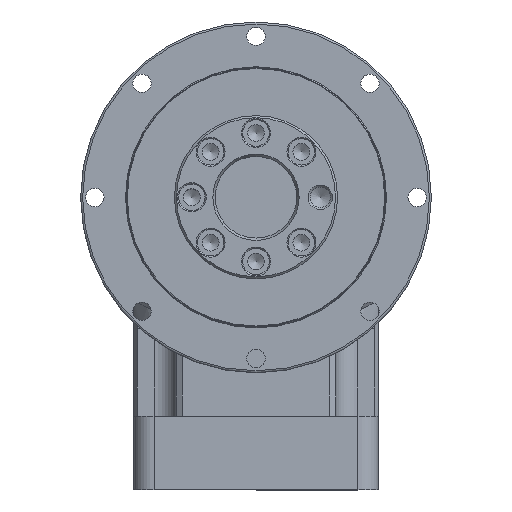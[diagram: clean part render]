
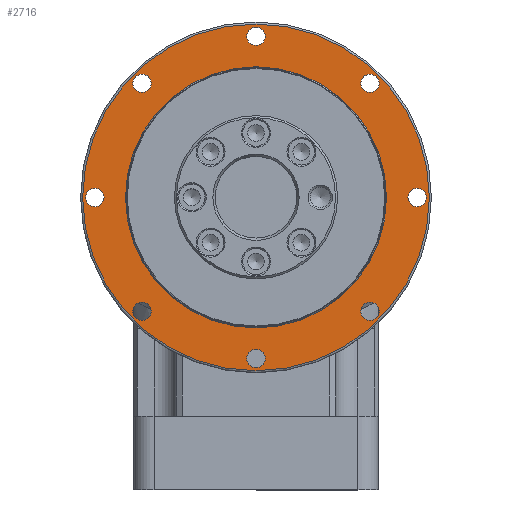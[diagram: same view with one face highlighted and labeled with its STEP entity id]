
A CAD part, top view. The second image highlights one B-rep face of the part: STEP entity #2716.
In plain terms, the highlighted planar face has unit normal (0, 0, 1).
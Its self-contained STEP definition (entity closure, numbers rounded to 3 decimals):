
#2594=CARTESIAN_POINT('',(42.5,0.,6.));
#2595=VERTEX_POINT('',#2594);
#2596=CARTESIAN_POINT('',(0.0,0.0,6.));
#2597=DIRECTION('',(0.0,0.0,-1.0));
#2598=DIRECTION('',(-1.0,0.0,0.0));
#2599=AXIS2_PLACEMENT_3D('',#2596,#2597,#2598);
#2600=CIRCLE('',#2599,42.5);
#2601=EDGE_CURVE('',#2595,#2595,#2600,.T.);
#2609=CARTESIAN_POINT('',(0.0,0.0,6.));
#2610=DIRECTION('',(0.0,0.0,-1.0));
#2611=DIRECTION('',(-1.0,0.0,0.0));
#2612=AXIS2_PLACEMENT_3D('',#2609,#2610,#2611);
#2613=PLANE('',#2612);
#2614=ORIENTED_EDGE('',*,*,#2601,.F.);
#2615=EDGE_LOOP('',(#2614));
#2616=FACE_OUTER_BOUND('',#2615,.T.);
#2617=CARTESIAN_POINT('',(32.0,0.,6.));
#2618=VERTEX_POINT('',#2617);
#2619=CARTESIAN_POINT('',(0.0,0.0,6.));
#2620=DIRECTION('',(0.0,0.0,-1.0));
#2621=DIRECTION('',(-1.0,0.0,0.0));
#2622=AXIS2_PLACEMENT_3D('',#2619,#2620,#2621);
#2623=CIRCLE('',#2622,32.0);
#2624=EDGE_CURVE('',#2618,#2618,#2623,.T.);
#2625=ORIENTED_EDGE('',*,*,#2624,.T.);
#2626=EDGE_LOOP('',(#2625));
#2627=FACE_BOUND('',#2626,.T.);
#2628=CARTESIAN_POINT('',(2.25,39.5,6.));
#2629=VERTEX_POINT('',#2628);
#2630=CARTESIAN_POINT('',(0.0,39.5,6.));
#2631=DIRECTION('',(0.0,0.0,-1.0));
#2632=DIRECTION('',(-1.0,0.0,0.0));
#2633=AXIS2_PLACEMENT_3D('',#2630,#2631,#2632);
#2634=CIRCLE('',#2633,2.25);
#2635=EDGE_CURVE('',#2629,#2629,#2634,.T.);
#2636=ORIENTED_EDGE('',*,*,#2635,.T.);
#2637=EDGE_LOOP('',(#2636));
#2638=FACE_BOUND('',#2637,.T.);
#2639=CARTESIAN_POINT('',(-26.34,29.522,6.));
#2640=VERTEX_POINT('',#2639);
#2641=CARTESIAN_POINT('',(-27.931,27.931,6.));
#2642=DIRECTION('',(0.0,0.0,-1.0));
#2643=DIRECTION('',(-0.707,-0.707,0.0));
#2644=AXIS2_PLACEMENT_3D('',#2641,#2642,#2643);
#2645=CIRCLE('',#2644,2.25);
#2646=EDGE_CURVE('',#2640,#2640,#2645,.T.);
#2647=ORIENTED_EDGE('',*,*,#2646,.T.);
#2648=EDGE_LOOP('',(#2647));
#2649=FACE_BOUND('',#2648,.T.);
#2650=CARTESIAN_POINT('',(-39.5,2.25,6.));
#2651=VERTEX_POINT('',#2650);
#2652=CARTESIAN_POINT('',(-39.5,0.0,6.));
#2653=DIRECTION('',(0.0,0.0,-1.0));
#2654=DIRECTION('',(0.0,-1.0,0.0));
#2655=AXIS2_PLACEMENT_3D('',#2652,#2653,#2654);
#2656=CIRCLE('',#2655,2.25);
#2657=EDGE_CURVE('',#2651,#2651,#2656,.T.);
#2658=ORIENTED_EDGE('',*,*,#2657,.T.);
#2659=EDGE_LOOP('',(#2658));
#2660=FACE_BOUND('',#2659,.T.);
#2661=CARTESIAN_POINT('',(-29.522,-26.34,6.));
#2662=VERTEX_POINT('',#2661);
#2663=CARTESIAN_POINT('',(-27.931,-27.931,6.));
#2664=DIRECTION('',(0.0,0.0,-1.0));
#2665=DIRECTION('',(0.707,-0.707,0.0));
#2666=AXIS2_PLACEMENT_3D('',#2663,#2664,#2665);
#2667=CIRCLE('',#2666,2.25);
#2668=EDGE_CURVE('',#2662,#2662,#2667,.T.);
#2669=ORIENTED_EDGE('',*,*,#2668,.T.);
#2670=EDGE_LOOP('',(#2669));
#2671=FACE_BOUND('',#2670,.T.);
#2672=CARTESIAN_POINT('',(-2.25,-39.5,6.));
#2673=VERTEX_POINT('',#2672);
#2674=CARTESIAN_POINT('',(0.,-39.5,6.));
#2675=DIRECTION('',(0.0,0.0,-1.0));
#2676=DIRECTION('',(1.0,0.0,0.0));
#2677=AXIS2_PLACEMENT_3D('',#2674,#2675,#2676);
#2678=CIRCLE('',#2677,2.25);
#2679=EDGE_CURVE('',#2673,#2673,#2678,.T.);
#2680=ORIENTED_EDGE('',*,*,#2679,.T.);
#2681=EDGE_LOOP('',(#2680));
#2682=FACE_BOUND('',#2681,.T.);
#2683=CARTESIAN_POINT('',(26.34,-29.522,6.));
#2684=VERTEX_POINT('',#2683);
#2685=CARTESIAN_POINT('',(27.931,-27.931,6.));
#2686=DIRECTION('',(0.0,0.0,-1.0));
#2687=DIRECTION('',(0.707,0.707,0.0));
#2688=AXIS2_PLACEMENT_3D('',#2685,#2686,#2687);
#2689=CIRCLE('',#2688,2.25);
#2690=EDGE_CURVE('',#2684,#2684,#2689,.T.);
#2691=ORIENTED_EDGE('',*,*,#2690,.T.);
#2692=EDGE_LOOP('',(#2691));
#2693=FACE_BOUND('',#2692,.T.);
#2694=CARTESIAN_POINT('',(39.5,-2.25,6.));
#2695=VERTEX_POINT('',#2694);
#2696=CARTESIAN_POINT('',(39.5,0.,6.));
#2697=DIRECTION('',(0.0,0.0,-1.0));
#2698=DIRECTION('',(0.0,1.0,0.0));
#2699=AXIS2_PLACEMENT_3D('',#2696,#2697,#2698);
#2700=CIRCLE('',#2699,2.25);
#2701=EDGE_CURVE('',#2695,#2695,#2700,.T.);
#2702=ORIENTED_EDGE('',*,*,#2701,.T.);
#2703=EDGE_LOOP('',(#2702));
#2704=FACE_BOUND('',#2703,.T.);
#2705=CARTESIAN_POINT('',(29.522,26.34,6.));
#2706=VERTEX_POINT('',#2705);
#2707=CARTESIAN_POINT('',(27.931,27.931,6.));
#2708=DIRECTION('',(0.0,0.0,-1.0));
#2709=DIRECTION('',(-0.707,0.707,0.0));
#2710=AXIS2_PLACEMENT_3D('',#2707,#2708,#2709);
#2711=CIRCLE('',#2710,2.25);
#2712=EDGE_CURVE('',#2706,#2706,#2711,.T.);
#2713=ORIENTED_EDGE('',*,*,#2712,.T.);
#2714=EDGE_LOOP('',(#2713));
#2715=FACE_BOUND('',#2714,.T.);
#2716=ADVANCED_FACE('',(#2616,#2627,#2638,#2649,#2660,#2671,#2682,#2693,#2704,#2715),#2613,.F.);
